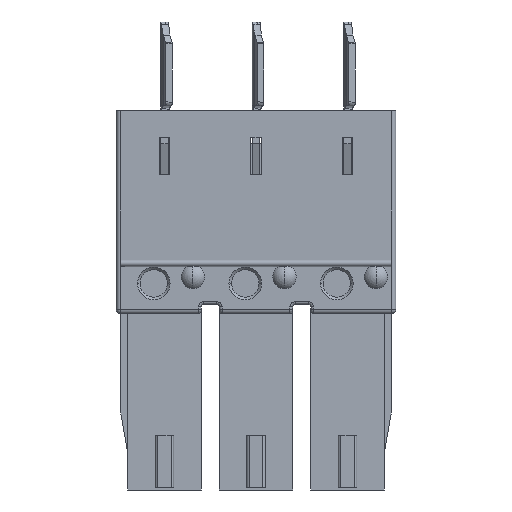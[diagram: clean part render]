
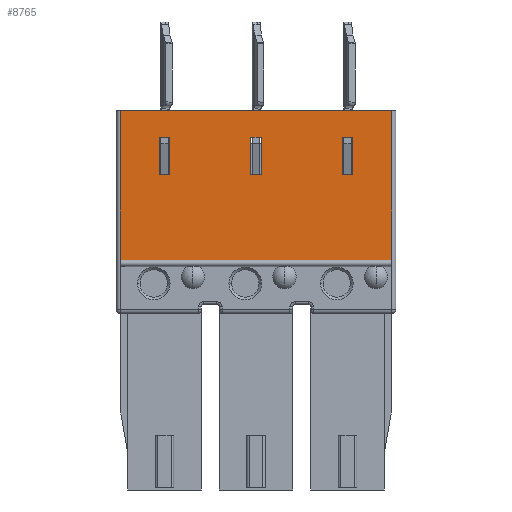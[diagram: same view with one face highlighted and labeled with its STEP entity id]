
A CAD part, front view. The second image highlights one B-rep face of the part: STEP entity #8765.
In plain terms, the highlighted planar face has unit normal (0, -1, 0).
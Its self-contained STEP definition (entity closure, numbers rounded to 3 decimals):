
#1=DIRECTION('',(-1.,0.,0.));
#2=VECTOR('',#1,10.4);
#3=CARTESIAN_POINT('',(25.678,0.25,-3.4));
#4=LINE('',#3,#2);
#153=DIRECTION('',(1.,0.,0.));
#154=VECTOR('',#153,10.4);
#155=CARTESIAN_POINT('',(15.278,0.25,-9.105));
#156=LINE('',#155,#154);
#1867=DIRECTION('',(-1.,0.,0.));
#1868=VECTOR('',#1867,0.4);
#1869=CARTESIAN_POINT('',(17.178,0.25,-5.85));
#1870=LINE('',#1869,#1868);
#1891=DIRECTION('',(0.,0.,-1.));
#1892=VECTOR('',#1891,1.45);
#1893=CARTESIAN_POINT('',(17.178,0.25,-4.4));
#1894=LINE('',#1893,#1892);
#2027=DIRECTION('',(0.,0.,1.));
#2028=VECTOR('',#2027,1.45);
#2029=CARTESIAN_POINT('',(16.778,0.25,-5.85));
#2030=LINE('',#2029,#2028);
#2039=DIRECTION('',(1.,0.,0.));
#2040=VECTOR('',#2039,0.4);
#2041=CARTESIAN_POINT('',(16.778,0.25,-4.4));
#2042=LINE('',#2041,#2040);
#3369=DIRECTION('',(-1.,0.,0.));
#3370=VECTOR('',#3369,0.4);
#3371=CARTESIAN_POINT('',(24.178,0.25,-5.85));
#3372=LINE('',#3371,#3370);
#3393=DIRECTION('',(0.,0.,-1.));
#3394=VECTOR('',#3393,1.45);
#3395=CARTESIAN_POINT('',(24.178,0.25,-4.4));
#3396=LINE('',#3395,#3394);
#3513=DIRECTION('',(0.,0.,1.));
#3514=VECTOR('',#3513,1.45);
#3515=CARTESIAN_POINT('',(23.778,0.25,-5.85));
#3516=LINE('',#3515,#3514);
#3525=DIRECTION('',(1.,0.,0.));
#3526=VECTOR('',#3525,0.4);
#3527=CARTESIAN_POINT('',(23.778,0.25,-4.4));
#3528=LINE('',#3527,#3526);
#4871=DIRECTION('',(-1.,0.,0.));
#4872=VECTOR('',#4871,0.4);
#4873=CARTESIAN_POINT('',(20.678,0.25,-5.85));
#4874=LINE('',#4873,#4872);
#4895=DIRECTION('',(0.,0.,-1.));
#4896=VECTOR('',#4895,1.45);
#4897=CARTESIAN_POINT('',(20.678,0.25,-4.4));
#4898=LINE('',#4897,#4896);
#5039=DIRECTION('',(0.,0.,1.));
#5040=VECTOR('',#5039,1.45);
#5041=CARTESIAN_POINT('',(20.278,0.25,-5.85));
#5042=LINE('',#5041,#5040);
#5051=DIRECTION('',(1.,0.,0.));
#5052=VECTOR('',#5051,0.4);
#5053=CARTESIAN_POINT('',(20.278,0.25,-4.4));
#5054=LINE('',#5053,#5052);
#5359=DIRECTION('',(0.,0.,-1.));
#5360=VECTOR('',#5359,5.705);
#5361=CARTESIAN_POINT('',(15.278,0.25,-3.4));
#5362=LINE('',#5361,#5360);
#6055=DIRECTION('',(0.,0.,1.));
#6056=VECTOR('',#6055,5.705);
#6057=CARTESIAN_POINT('',(25.678,0.25,-9.105));
#6058=LINE('',#6057,#6056);
#6943=CARTESIAN_POINT('',(25.678,0.25,-3.4));
#6944=CARTESIAN_POINT('',(15.278,0.25,-3.4));
#6945=VERTEX_POINT('',#6943);
#6946=VERTEX_POINT('',#6944);
#7055=CARTESIAN_POINT('',(15.278,0.25,-9.105));
#7056=CARTESIAN_POINT('',(25.678,0.25,-9.105));
#7057=VERTEX_POINT('',#7055);
#7058=VERTEX_POINT('',#7056);
#7059=CARTESIAN_POINT('',(17.178,0.25,-4.4));
#7060=CARTESIAN_POINT('',(17.178,0.25,-5.85));
#7061=VERTEX_POINT('',#7059);
#7062=VERTEX_POINT('',#7060);
#7063=CARTESIAN_POINT('',(16.778,0.25,-4.4));
#7064=VERTEX_POINT('',#7063);
#7065=CARTESIAN_POINT('',(16.778,0.25,-5.85));
#7066=VERTEX_POINT('',#7065);
#7067=CARTESIAN_POINT('',(20.678,0.25,-4.4));
#7068=CARTESIAN_POINT('',(20.678,0.25,-5.85));
#7069=VERTEX_POINT('',#7067);
#7070=VERTEX_POINT('',#7068);
#7071=CARTESIAN_POINT('',(20.278,0.25,-4.4));
#7072=VERTEX_POINT('',#7071);
#7073=CARTESIAN_POINT('',(20.278,0.25,-5.85));
#7074=VERTEX_POINT('',#7073);
#7075=CARTESIAN_POINT('',(24.178,0.25,-4.4));
#7076=CARTESIAN_POINT('',(24.178,0.25,-5.85));
#7077=VERTEX_POINT('',#7075);
#7078=VERTEX_POINT('',#7076);
#7079=CARTESIAN_POINT('',(23.778,0.25,-4.4));
#7080=VERTEX_POINT('',#7079);
#7081=CARTESIAN_POINT('',(23.778,0.25,-5.85));
#7082=VERTEX_POINT('',#7081);
#8721=CARTESIAN_POINT('',(31.078,0.25,-3.4));
#8722=DIRECTION('',(0.,-1.,0.));
#8723=DIRECTION('',(0.,0.,-1.));
#8724=AXIS2_PLACEMENT_3D('',#8721,#8722,#8723);
#8725=PLANE('',#8724);
#8727=ORIENTED_EDGE('',*,*,#8726,.F.);
#8729=ORIENTED_EDGE('',*,*,#8728,.F.);
#8730=ORIENTED_EDGE('',*,*,#8606,.F.);
#8732=ORIENTED_EDGE('',*,*,#8731,.F.);
#8733=EDGE_LOOP('',(#8727,#8729,#8730,#8732));
#8734=FACE_OUTER_BOUND('',#8733,.F.);
#8736=ORIENTED_EDGE('',*,*,#8735,.F.);
#8738=ORIENTED_EDGE('',*,*,#8737,.F.);
#8740=ORIENTED_EDGE('',*,*,#8739,.F.);
#8742=ORIENTED_EDGE('',*,*,#8741,.F.);
#8743=EDGE_LOOP('',(#8736,#8738,#8740,#8742));
#8744=FACE_BOUND('',#8743,.F.);
#8746=ORIENTED_EDGE('',*,*,#8745,.F.);
#8748=ORIENTED_EDGE('',*,*,#8747,.F.);
#8750=ORIENTED_EDGE('',*,*,#8749,.F.);
#8752=ORIENTED_EDGE('',*,*,#8751,.F.);
#8753=EDGE_LOOP('',(#8746,#8748,#8750,#8752));
#8754=FACE_BOUND('',#8753,.F.);
#8756=ORIENTED_EDGE('',*,*,#8755,.F.);
#8758=ORIENTED_EDGE('',*,*,#8757,.F.);
#8760=ORIENTED_EDGE('',*,*,#8759,.F.);
#8762=ORIENTED_EDGE('',*,*,#8761,.F.);
#8763=EDGE_LOOP('',(#8756,#8758,#8760,#8762));
#8764=FACE_BOUND('',#8763,.F.);
#8765=ADVANCED_FACE('',(#8734,#8744,#8754,#8764),#8725,.T.);
#8606=EDGE_CURVE('',#6945,#6946,#4,.T.);
#8726=EDGE_CURVE('',#7057,#7058,#156,.T.);
#8728=EDGE_CURVE('',#6946,#7057,#5362,.T.);
#8731=EDGE_CURVE('',#7058,#6945,#6058,.T.);
#8735=EDGE_CURVE('',#7061,#7062,#1894,.T.);
#8737=EDGE_CURVE('',#7064,#7061,#2042,.T.);
#8739=EDGE_CURVE('',#7066,#7064,#2030,.T.);
#8741=EDGE_CURVE('',#7062,#7066,#1870,.T.);
#8745=EDGE_CURVE('',#7069,#7070,#4898,.T.);
#8747=EDGE_CURVE('',#7072,#7069,#5054,.T.);
#8749=EDGE_CURVE('',#7074,#7072,#5042,.T.);
#8751=EDGE_CURVE('',#7070,#7074,#4874,.T.);
#8755=EDGE_CURVE('',#7077,#7078,#3396,.T.);
#8757=EDGE_CURVE('',#7080,#7077,#3528,.T.);
#8759=EDGE_CURVE('',#7082,#7080,#3516,.T.);
#8761=EDGE_CURVE('',#7078,#7082,#3372,.T.);
